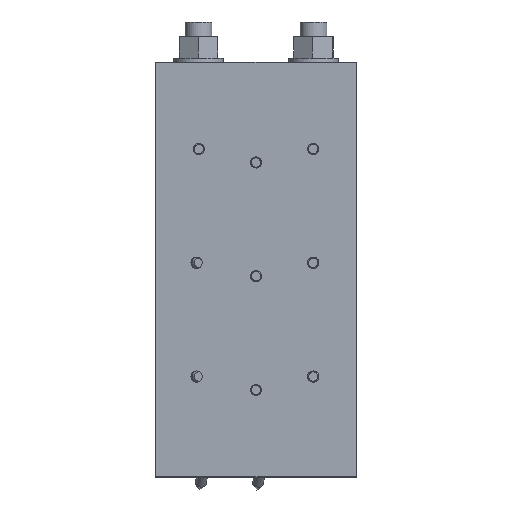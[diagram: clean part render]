
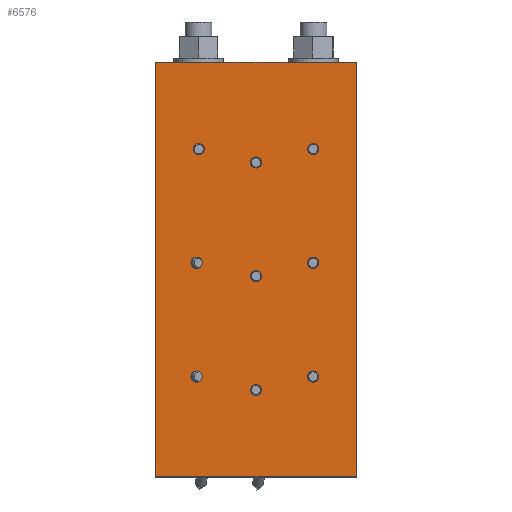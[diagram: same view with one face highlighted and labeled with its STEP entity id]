
A CAD part, top view. The second image highlights one B-rep face of the part: STEP entity #6576.
In plain terms, the highlighted planar face has unit normal (0, 0, 1) as drawn and (0, -1, 0) by its records, which use the part's own axes.
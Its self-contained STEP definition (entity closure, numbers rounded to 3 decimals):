
#668=CIRCLE('',#7760,4.188);
#669=CIRCLE('',#7761,4.188);
#670=CIRCLE('',#7762,4.188);
#671=CIRCLE('',#7763,4.188);
#672=CIRCLE('',#7764,4.188);
#673=CIRCLE('',#7765,4.188);
#674=CIRCLE('',#7766,4.188);
#675=CIRCLE('',#7767,4.188);
#676=CIRCLE('',#7768,4.188);
#2032=ORIENTED_EDGE('',*,*,#2912,.T.);
#2033=ORIENTED_EDGE('',*,*,#2913,.T.);
#2034=ORIENTED_EDGE('',*,*,#2914,.T.);
#2035=ORIENTED_EDGE('',*,*,#2915,.T.);
#2036=ORIENTED_EDGE('',*,*,#2916,.T.);
#2037=ORIENTED_EDGE('',*,*,#2917,.T.);
#2038=ORIENTED_EDGE('',*,*,#2918,.T.);
#2039=ORIENTED_EDGE('',*,*,#2919,.T.);
#2040=ORIENTED_EDGE('',*,*,#2920,.T.);
#2041=ORIENTED_EDGE('',*,*,#2900,.T.);
#2042=ORIENTED_EDGE('',*,*,#2904,.T.);
#2043=ORIENTED_EDGE('',*,*,#2907,.T.);
#2044=ORIENTED_EDGE('',*,*,#2910,.T.);
#2900=EDGE_CURVE('',#3526,#3527,#4029,.T.);
#2904=EDGE_CURVE('',#3527,#3530,#4033,.T.);
#2907=EDGE_CURVE('',#3530,#3532,#4036,.T.);
#2910=EDGE_CURVE('',#3532,#3526,#4039,.T.);
#2912=EDGE_CURVE('',#3534,#3534,#668,.T.);
#2913=EDGE_CURVE('',#3535,#3535,#669,.T.);
#2914=EDGE_CURVE('',#3536,#3536,#670,.T.);
#2915=EDGE_CURVE('',#3537,#3537,#671,.T.);
#2916=EDGE_CURVE('',#3538,#3538,#672,.T.);
#2917=EDGE_CURVE('',#3539,#3539,#673,.T.);
#2918=EDGE_CURVE('',#3540,#3540,#674,.T.);
#2919=EDGE_CURVE('',#3541,#3541,#675,.T.);
#2920=EDGE_CURVE('',#3542,#3542,#676,.T.);
#3526=VERTEX_POINT('',#11332);
#3527=VERTEX_POINT('',#11333);
#3530=VERTEX_POINT('',#11341);
#3532=VERTEX_POINT('',#11347);
#3534=VERTEX_POINT('',#11357);
#3535=VERTEX_POINT('',#11359);
#3536=VERTEX_POINT('',#11361);
#3537=VERTEX_POINT('',#11363);
#3538=VERTEX_POINT('',#11365);
#3539=VERTEX_POINT('',#11367);
#3540=VERTEX_POINT('',#11369);
#3541=VERTEX_POINT('',#11371);
#3542=VERTEX_POINT('',#11373);
#4029=LINE('',#11331,#4517);
#4033=LINE('',#11340,#4521);
#4036=LINE('',#11346,#4524);
#4039=LINE('',#11352,#4527);
#4517=VECTOR('',#9496,1000.);
#4521=VECTOR('',#9502,1000.);
#4524=VECTOR('',#9507,1000.);
#4527=VECTOR('',#9512,1000.);
#5205=EDGE_LOOP('',(#2032));
#5206=EDGE_LOOP('',(#2033));
#5207=EDGE_LOOP('',(#2034));
#5208=EDGE_LOOP('',(#2035));
#5209=EDGE_LOOP('',(#2036));
#5210=EDGE_LOOP('',(#2037));
#5211=EDGE_LOOP('',(#2038));
#5212=EDGE_LOOP('',(#2039));
#5213=EDGE_LOOP('',(#2040));
#5214=EDGE_LOOP('',(#2041,#2042,#2043,#2044));
#5937=FACE_BOUND('',#5205,.T.);
#5938=FACE_BOUND('',#5206,.T.);
#5939=FACE_BOUND('',#5207,.T.);
#5940=FACE_BOUND('',#5208,.T.);
#5941=FACE_BOUND('',#5209,.T.);
#5942=FACE_BOUND('',#5210,.T.);
#5943=FACE_BOUND('',#5211,.T.);
#5944=FACE_BOUND('',#5212,.T.);
#5945=FACE_BOUND('',#5213,.T.);
#5946=FACE_BOUND('',#5214,.T.);
#6212=PLANE('',#7759);
#6576=ADVANCED_FACE('',(#5937,#5938,#5939,#5940,#5941,#5942,#5943,#5944,
#5945,#5946),#6212,.T.);
#7759=AXIS2_PLACEMENT_3D('',#11355,#9516,#9517);
#7760=AXIS2_PLACEMENT_3D('',#11356,#9518,#9519);
#7761=AXIS2_PLACEMENT_3D('',#11358,#9520,#9521);
#7762=AXIS2_PLACEMENT_3D('',#11360,#9522,#9523);
#7763=AXIS2_PLACEMENT_3D('',#11362,#9524,#9525);
#7764=AXIS2_PLACEMENT_3D('',#11364,#9526,#9527);
#7765=AXIS2_PLACEMENT_3D('',#11366,#9528,#9529);
#7766=AXIS2_PLACEMENT_3D('',#11368,#9530,#9531);
#7767=AXIS2_PLACEMENT_3D('',#11370,#9532,#9533);
#7768=AXIS2_PLACEMENT_3D('',#11372,#9534,#9535);
#9496=DIRECTION('',(0.,0.,-1.));
#9502=DIRECTION('',(1.,0.,0.));
#9507=DIRECTION('',(0.,0.,1.));
#9512=DIRECTION('',(-1.,0.,0.));
#9516=DIRECTION('',(0.,-1.,0.));
#9517=DIRECTION('',(0.,0.,-1.));
#9518=DIRECTION('',(0.,1.,0.));
#9519=DIRECTION('',(0.,0.,-1.));
#9520=DIRECTION('',(0.,1.,0.));
#9521=DIRECTION('',(0.,0.,-1.));
#9522=DIRECTION('',(0.,1.,0.));
#9523=DIRECTION('',(0.,0.,-1.));
#9524=DIRECTION('',(0.,1.,0.));
#9525=DIRECTION('',(0.,0.,-1.));
#9526=DIRECTION('',(0.,1.,0.));
#9527=DIRECTION('',(0.,0.,-1.));
#9528=DIRECTION('',(0.,1.,0.));
#9529=DIRECTION('',(0.,0.,-1.));
#9530=DIRECTION('',(0.,1.,0.));
#9531=DIRECTION('',(0.,0.,-1.));
#9532=DIRECTION('',(0.,1.,0.));
#9533=DIRECTION('',(0.,0.,-1.));
#9534=DIRECTION('',(0.,1.,0.));
#9535=DIRECTION('',(0.,0.,-1.));
#11331=CARTESIAN_POINT('',(0.,0.,0.));
#11332=CARTESIAN_POINT('',(0.,0.,310.));
#11333=CARTESIAN_POINT('',(0.,0.,0.));
#11340=CARTESIAN_POINT('',(2.94,0.,0.));
#11341=CARTESIAN_POINT('',(150.,0.,0.));
#11346=CARTESIAN_POINT('',(150.,0.,0.));
#11347=CARTESIAN_POINT('',(150.,0.,310.));
#11352=CARTESIAN_POINT('',(152.94,0.,310.));
#11355=CARTESIAN_POINT('',(2.94,0.,0.));
#11356=CARTESIAN_POINT('',(75.,0.,235.));
#11357=CARTESIAN_POINT('',(75.,0.,230.812));
#11358=CARTESIAN_POINT('',(75.,0.,150.));
#11359=CARTESIAN_POINT('',(75.,0.,145.812));
#11360=CARTESIAN_POINT('',(75.,0.,65.));
#11361=CARTESIAN_POINT('',(75.,0.,60.812));
#11362=CARTESIAN_POINT('',(117.75,0.,245.));
#11363=CARTESIAN_POINT('',(117.75,0.,240.812));
#11364=CARTESIAN_POINT('',(117.75,0.,160.));
#11365=CARTESIAN_POINT('',(117.75,0.,155.812));
#11366=CARTESIAN_POINT('',(32.25,0.,245.));
#11367=CARTESIAN_POINT('',(32.25,0.,240.812));
#11368=CARTESIAN_POINT('',(30.581,0.,160.));
#11369=CARTESIAN_POINT('',(30.581,0.,155.812));
#11370=CARTESIAN_POINT('',(117.75,0.,75.));
#11371=CARTESIAN_POINT('',(117.75,0.,70.812));
#11372=CARTESIAN_POINT('',(30.581,0.,75.));
#11373=CARTESIAN_POINT('',(30.581,0.,70.812));
